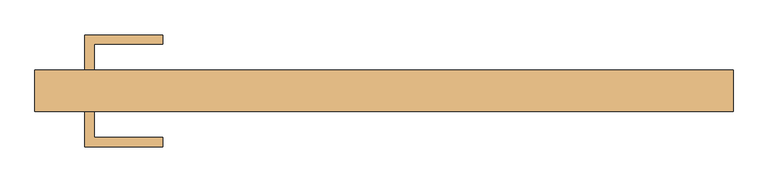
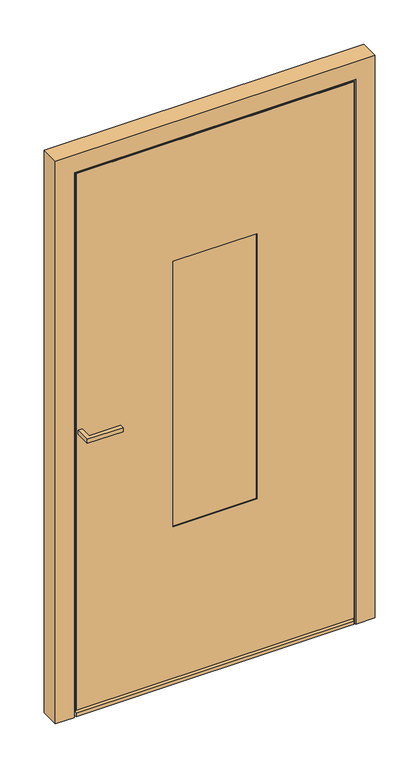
"""IFC4 building model written with IfcOpenShell, lengths in millimetres: door geometry, Reynaers_CS 77_Door_Panel_Outward Opening_Single Vent_Spy Window : Reynaers_CS 77_Door_Panel_Outward Opening_Single Vent_Spy Window."""

from ifc_helpers import new_model, si_unit, frame, origin, place, context, project, spatial, polyline, circle_curve, outline, extrude, faceted_brep, source, transform, mapped, element, save
from ifc_brep_helpers import plane_surface, cylinder_surface, revolved_surface, advanced_brep


def door_777bb172(model_context):
    return source(origin(), model_context, "Body", "SolidModel", [
        extrude(outline(polyline([(-488.5, 42.5), (-488.5, 100.0), (-361.0, 100.0), (-361.0, 85.0), (-473.5, 85.0), (-473.5, 42.5), (-488.5, 42.5)])), frame((0.0, 0.0, 1062.5), z_axis=(0.0, 0.0, 1.0), x_axis=(1.0, 0.0, 0.0)), (0.0, 0.0, 1.0), 15.0),
        extrude(outline(polyline([(-488.5, -25.5), (-473.5, -25.5), (-473.5, -68.0), (-361.0, -68.0), (-361.0, -83.0), (-488.5, -83.0), (-488.5, -25.5)])), frame((0.0, 0.0, 1062.5), z_axis=(0.0, 0.0, 1.0), x_axis=(1.0, 0.0, 0.0)), (0.0, 0.0, 1.0), 15.0),
        extrude(outline(polyline([(170.0, 35.5), (170.0, 29.5), (-170.0, 29.5), (-170.0, 35.5), (170.0, 35.5)])), frame((0.0, 0.0, 575.0), z_axis=(0.0, 0.0, 1.0), x_axis=(1.0, 0.0, 0.0)), (0.0, 0.0, 1.0), 1040.0),
        extrude(outline(polyline([(170.0, 11.5), (170.0, 5.5), (-170.0, 5.5), (-170.0, 11.5), (170.0, 11.5)])), frame((0.0, 0.0, 575.0), z_axis=(0.0, 0.0, 1.0), x_axis=(1.0, 0.0, 0.0)), (0.0, 0.0, 1.0), 1040.0),
        extrude(outline(polyline([(170.0, -12.5), (170.0, -18.5), (-170.0, -18.5), (-170.0, -12.5), (170.0, -12.5)])), frame((0.0, 0.0, 575.0), z_axis=(0.0, 0.0, 1.0), x_axis=(1.0, 0.0, 0.0)), (0.0, 0.0, 1.0), 1040.0),
        extrude(outline(polyline([(2046.0028981, 496.0), (2046.0028981, -496.0), (24.4991379, -496.0), (24.4991379, 496.0), (2046.0028981, 496.0)]), holes=[polyline([(595.0, -150.0), (1595.0, -150.0), (1595.0, 150.0), (595.0, 150.0), (595.0, -150.0)])]), frame((0.0, -25.5, 0.0), z_axis=(0.0, 1.0, 0.0), x_axis=(0.0, 0.0, 1.0)), (0.0, 0.0, 1.0), 3.0),
        extrude(outline(polyline([(440.0, -22.5), (-440.0, -22.5), (-440.0, 39.5), (440.0, 39.5), (440.0, -22.5)])), frame((0.0, 0.0, 92.5), z_axis=(0.0, 0.0, 1.0), x_axis=(1.0, 0.0, 0.0)), (0.0, 0.0, 1.0), 432.5104017),
        extrude(outline(polyline([(1990.0, 440.0), (1990.0, -440.0), (570.0104017, -440.0), (570.0104017, -174.9895984), (1619.9895984, -174.9895984), (1619.9895984, 174.9895984), (570.0104017, 174.9895984), (570.0104017, 440.0), (1990.0, 440.0)])), frame((0.0, -22.5, 0.0), z_axis=(0.0, 1.0, 0.0), x_axis=(0.0, 0.0, 1.0)), (0.0, 0.0, 1.0), 62.0),
        extrude(outline(polyline([(2072.0, 522.0), (2072.0, -522.0), (10.5, -522.0), (10.5, 522.0), (2072.0, 522.0)]), holes=[polyline([(595.0, -150.0), (1595.0, -150.0), (1595.0, 150.0), (595.0, 150.0), (595.0, -150.0)])]), frame((0.0, 39.5, 0.0), z_axis=(0.0, 1.0, 0.0), x_axis=(0.0, 0.0, 1.0)), (0.0, 0.0, 1.0), 3.0),
        faceted_brep([(445.0, -22.091728, 1995.0), (445.0, 39.5, 1995.0), (445.0, 39.5, 87.5), (445.0, -22.091728, 87.5), (522.0, 39.5, 2072.0), (522.0, 39.5, 10.5), (-522.0, 39.5, 10.5), (-522.0, 39.5, 2072.0), (-445.0, 39.5, 1995.0), (-445.0, 39.5, 87.5), (-445.0, -22.091728, 87.5), (-496.0, -22.091728, 2046.0), (-496.0, -22.091728, 36.5), (496.0, -22.091728, 36.5), (496.0, -22.091728, 2046.0), (-445.0, -22.091728, 1995.0), (496.0, -16.691728, 2046.0), (496.0, -16.691728, 36.5), (-496.0, -16.691728, 36.5), (-507.0, -16.691728, 2057.0), (-507.0, -16.691728, 25.5), (507.0, -16.691728, 25.5), (507.0, -16.691728, 2057.0), (-496.0, -16.691728, 2046.0), (-507.0, 33.7, 25.5), (-507.0, 33.7, 2057.0), (507.0, 33.7, 25.5), (507.0, 33.7, 2057.0), (-522.0, 33.7, 2072.0), (-522.0, 33.7, 10.5), (522.0, 33.7, 10.5), (522.0, 33.7, 2072.0)], [[[0, 1, 2, 3]], [[4, 5, 6, 7], [8, 9, 2, 1]], [[3, 2, 9, 10]], [[11, 12, 13, 14], [0, 3, 10, 15]], [[16, 14, 13, 17]], [[17, 13, 12, 18]], [[19, 20, 21, 22], [16, 17, 18, 23]], [[10, 9, 8, 15]], [[18, 12, 11, 23]], [[24, 20, 19, 25]], [[26, 21, 20, 24]], [[27, 22, 21, 26]], [[28, 29, 30, 31], [27, 26, 24, 25]], [[4, 31, 30, 5]], [[5, 30, 29, 6]], [[6, 29, 28, 7]], [[15, 8, 1, 0]], [[23, 11, 14, 16]], [[25, 19, 22, 27]], [[7, 28, 31, 4]]]),
        faceted_brep([(-528.0, 33.7, 0.0), (-517.0, 33.7, 0.0), (-517.0, -21.7, 0.0), (-502.0, -21.7, 0.0), (-502.0, -25.5, 0.0), (-570.0, -25.5, 0.0), (-570.0, 42.5, 0.0), (-528.0, 42.5, 0.0), (-528.0, 33.7, 2078.0), (528.0, 33.7, 2078.0), (528.0, 33.7, 0.0), (517.0, 33.7, 0.0), (517.0, 33.7, 2067.0), (-517.0, 33.7, 2067.0), (-517.0, -21.7, 2067.0), (517.0, -21.7, 2067.0), (517.0, -21.7, 0.0), (502.0, -21.7, 0.0), (502.0, -21.7, 2052.0), (-502.0, -21.7, 2052.0), (-502.0, -25.5, 2052.0), (502.0, -25.5, 2052.0), (502.0, -25.5, 0.0), (570.0, -25.5, 0.0), (570.0, -25.5, 2120.0), (-570.0, -25.5, 2120.0), (-570.0, 42.5, 2120.0), (570.0, 42.5, 2120.0), (570.0, 42.5, 0.0), (528.0, 42.5, 0.0), (528.0, 42.5, 2078.0), (-528.0, 42.5, 2078.0)], [[[0, 1, 2, 3, 4, 5, 6, 7]], [[1, 0, 8, 9, 10, 11, 12, 13]], [[2, 1, 13, 14]], [[3, 2, 14, 15, 16, 17, 18, 19]], [[4, 3, 19, 20]], [[5, 4, 20, 21, 22, 23, 24, 25]], [[6, 5, 25, 26]], [[7, 6, 26, 27, 28, 29, 30, 31]], [[0, 7, 31, 8]], [[9, 30, 29, 10]], [[10, 29, 28, 23, 22, 17, 16, 11]], [[15, 12, 11, 16]], [[27, 24, 23, 28]], [[21, 18, 17, 22]], [[26, 25, 24, 27]], [[8, 31, 30, 9]], [[14, 13, 12, 15]], [[20, 19, 18, 21]]]),
        advanced_brep(
        [(496.0, -5.8251712, 24.7), (-496.0, -5.8251712, 24.7), (-496.0, -12.4802098, 24.7), (496.0, -12.4802098, 24.7), (-496.0, -13.8173289, 23.9280139), (496.0, -13.8173289, 23.9280139), (-496.0, -15.1440031, 23.9280139), (496.0, -15.1440031, 23.9280139), (-496.0, -14.1253586, 17.259944), (496.0, -14.1253586, 17.259944), (-496.0, -9.3328852, 20.8033727), (496.0, -9.3328852, 20.8033727), (-496.0, -5.8251712, 23.5049578), (496.0, -5.8251712, 23.5049578)],
        [
            (0, 1),
            (1, 2),
            (2, 3),
            (3, 0),
            (2, 4),
            (4, 5),
            (5, 3),
            (4, 6),
            (6, 7),
            (7, 5),
            (6, 8, circle_curve(frame((-496.0, -14.9944621, 20.5338193), z_axis=(1.0, 0.0, 0.0), x_axis=(0.0, -1.0, 0.0)), 3.3872704)),
            (8, 9),
            (9, 7, circle_curve(frame((496.0, -14.9944621, 20.5338193), z_axis=(-1.0, 0.0, 0.0), x_axis=(0.0, -1.0, 0.0)), 3.3872704)),
            (8, 10, circle_curve(frame((-496.0, -16.6631573, 25.7049218), z_axis=(1.0, 0.0, 0.0), x_axis=(0.0, -1.0, 0.0)), 8.8180539)),
            (10, 11),
            (11, 9, circle_curve(frame((496.0, -16.6631573, 25.7049218), z_axis=(-1.0, 0.0, 0.0), x_axis=(0.0, -1.0, 0.0)), 8.8180539)),
            (10, 12, circle_curve(frame((-496.0, -1.0247942, 13.6442063), z_axis=(-1.0, 0.0, 0.0), x_axis=(0.0, -1.0, 0.0)), 10.9671344)),
            (12, 13),
            (13, 11, circle_curve(frame((496.0, -1.0247942, 13.6442063), z_axis=(1.0, 0.0, 0.0), x_axis=(0.0, -1.0, 0.0)), 10.9671344)),
            (0, 13),
            (12, 1),
        ],
        [
            plane_surface(frame((522.0, -5.8251712, 24.7), z_axis=(0.0, 0.0, 1.0), x_axis=(-1.0, 0.0, 0.0))),
            plane_surface(frame((522.0, -12.4802098, 24.7), z_axis=(0.0, -0.5000000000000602, 0.866025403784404), x_axis=(-1.0, 0.0, 0.0))),
            plane_surface(frame((522.0, -13.8173289, 23.9280139), z_axis=(0.0, 0.0, 1.0), x_axis=(-1.0, 0.0, 0.0))),
            cylinder_surface(frame((522.0, -14.9944621, 20.5338193), z_axis=(1.0, 0.0, 0.0), x_axis=(0.0, -1.0, 0.0)), 3.3872704),
            cylinder_surface(frame((522.0, -16.6631573, 25.7049218), z_axis=(1.0, 0.0, 0.0), x_axis=(0.0, -1.0, 0.0)), 8.8180539),
            revolved_surface(polyline([(-496.0, -11.991928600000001, 13.6442063), (496.0, -11.991928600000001, 13.6442063)]), (522.0, -1.0247942, 13.6442063), (-1.0, 0.0, 0.0)),
            plane_surface(frame((522.0, -5.8251712, 23.5049578), z_axis=(0.0, 1.0, 0.0), x_axis=(-1.0, 0.0, 0.0))),
            plane_surface(frame((-496.0, -120.824421, 0.0), z_axis=(-1.0, 0.0, 0.0), x_axis=(0.0, 1.0, 0.0))),
            plane_surface(frame((496.0, -120.824421, 36.5), z_axis=(1.0, 0.0, 0.0), x_axis=(0.0, 1.0, 0.0))),
        ],
        [
            (0, [[1, 2, 3, 4]]),
            (1, [[-3, 5, 6, 7]]),
            (2, [[-6, 8, 9, 10]]),
            (3, [[-9, 11, 12, 13]]),
            (4, [[-12, 14, 15, 16]]),
            (5, [[-15, 17, 18, 19]]),
            (6, [[-1, 20, -18, 21]]),
            (7, [[-2, -21, -17, -14, -11, -8, -5]]),
            (8, [[-4, -7, -10, -13, -16, -19, -20]]),
        ],
    ),
        extrude(outline(polyline([(42.5, 1.9998842), (42.5, 1.0), (-25.5, 1.0), (-25.5, 13.6784228), (-17.3418049, 19.3908525), (-11.1401434, 12.0), (33.5, 12.0), (33.5, 2.4715542), (42.5, 1.9998842)])), frame((-496.0, 0.0, 0.0), z_axis=(1.0, 0.0, 0.0), x_axis=(0.0, 1.0, 0.0)), (0.0, 0.0, 1.0), 992.0),
        extrude(outline(polyline([(38.7, 570.0), (38.7, 530.0), (11.5047227, 530.0), (11.4980611, 535.0045232), (-20.5, 534.9619301), (-20.5, 529.9999038), (-22.5, 529.9999038), (-22.5, 569.9999038), (-20.5, 569.9999038), (-20.5, 564.8720438), (11.4978946, 564.8720438), (11.5047227, 570.0), (38.7, 570.0)])), frame((-445.0, 0.0, 0.0), z_axis=(1.0, 0.0, 0.0), x_axis=(0.0, 1.0, 0.0)), (0.0, 0.0, 1.0), 890.0),
    ])


if __name__ == "__main__":
    model = new_model("IFC4")
    model_context = context("Model", 3, world=origin())
    ifc_project = project(units=[si_unit("LENGTHUNIT", "METRE", prefix="MILLI")], contexts=[model_context])
    site = spatial("IfcSite", under=ifc_project)
    building = spatial("IfcBuilding", under=site)
    placement = place(None, origin())
    door_shape = door_777bb172(model_context)
    element("IfcDoor", 1, ObjectType="Reynaers_CS 77_Door_Panel_Outward Opening_Single Vent_Spy Window : Reynaers_CS 77_Door_Panel_Outward Opening_Single Vent_Spy Window", at=placement, inside=building, context=model_context, shape_type="MappedRepresentation", body=[
        mapped(door_shape, transform((0.0, 0.0, 0.0), x_axis=(1.0, 0.0, 0.0), y_axis=(0.0, 1.0, 0.0), z_axis=(0.0, 0.0, 1.0))),
    ])
    save(model, "model.ifc")
